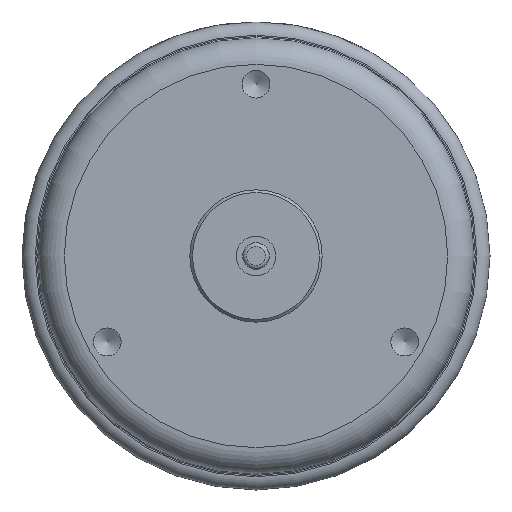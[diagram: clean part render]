
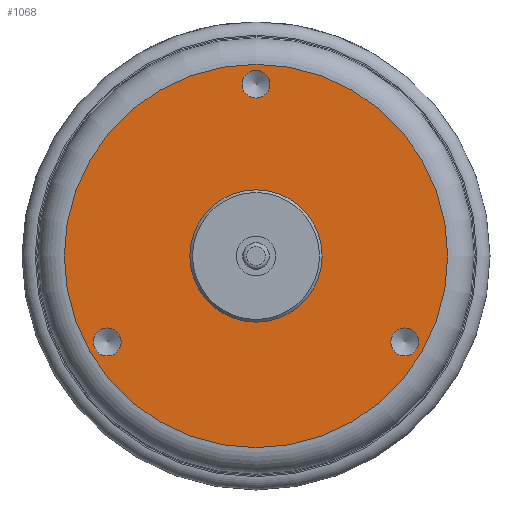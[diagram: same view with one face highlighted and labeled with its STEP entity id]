
A CAD part, front view. The second image highlights one B-rep face of the part: STEP entity #1068.
In plain terms, the highlighted planar face has unit normal (0, -1, 0).
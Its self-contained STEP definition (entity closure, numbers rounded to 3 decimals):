
#46=FACE_BOUND('',#342,.T.);
#47=FACE_BOUND('',#343,.T.);
#48=FACE_BOUND('',#344,.T.);
#49=FACE_BOUND('',#345,.T.);
#113=PLANE('',#1233);
#165=CIRCLE('',#1193,1.057);
#167=CIRCLE('',#1197,1.057);
#169=CIRCLE('',#1201,1.057);
#176=CIRCLE('',#1213,5.);
#187=CIRCLE('',#1231,14.5);
#255=FACE_OUTER_BOUND('',#341,.T.);
#341=EDGE_LOOP('',(#971));
#342=EDGE_LOOP('',(#972));
#343=EDGE_LOOP('',(#973));
#344=EDGE_LOOP('',(#974));
#345=EDGE_LOOP('',(#975));
#537=VERTEX_POINT('',#1875);
#540=VERTEX_POINT('',#1884);
#543=VERTEX_POINT('',#1893);
#549=VERTEX_POINT('',#1914);
#558=VERTEX_POINT('',#1944);
#664=EDGE_CURVE('',#537,#537,#165,.T.);
#668=EDGE_CURVE('',#540,#540,#167,.T.);
#672=EDGE_CURVE('',#543,#543,#169,.T.);
#683=EDGE_CURVE('',#549,#549,#176,.T.);
#696=EDGE_CURVE('',#558,#558,#187,.T.);
#971=ORIENTED_EDGE('',*,*,#696,.F.);
#972=ORIENTED_EDGE('',*,*,#664,.T.);
#973=ORIENTED_EDGE('',*,*,#668,.T.);
#974=ORIENTED_EDGE('',*,*,#672,.T.);
#975=ORIENTED_EDGE('',*,*,#683,.T.);
#1068=ADVANCED_FACE('',(#255,#46,#47,#48,#49),#113,.T.);
#1193=AXIS2_PLACEMENT_3D('',#1876,#1484,#1485);
#1197=AXIS2_PLACEMENT_3D('',#1885,#1494,#1495);
#1201=AXIS2_PLACEMENT_3D('',#1894,#1504,#1505);
#1213=AXIS2_PLACEMENT_3D('',#1916,#1532,#1533);
#1231=AXIS2_PLACEMENT_3D('',#1945,#1570,#1571);
#1233=AXIS2_PLACEMENT_3D('',#1947,#1574,#1575);
#1484=DIRECTION('center_axis',(0.,1.,0.));
#1485=DIRECTION('ref_axis',(1.,0.,0.));
#1494=DIRECTION('center_axis',(0.,1.,0.));
#1495=DIRECTION('ref_axis',(1.,0.,0.));
#1504=DIRECTION('center_axis',(0.,1.,0.));
#1505=DIRECTION('ref_axis',(1.,0.,0.));
#1532=DIRECTION('center_axis',(0.,1.,0.));
#1533=DIRECTION('ref_axis',(-1.,0.,0.));
#1570=DIRECTION('center_axis',(0.,1.,0.));
#1571=DIRECTION('ref_axis',(1.,0.,0.));
#1574=DIRECTION('center_axis',(0.,-1.,0.));
#1575=DIRECTION('ref_axis',(0.,0.,-1.));
#1875=CARTESIAN_POINT('',(10.202,0.,-6.5));
#1876=CARTESIAN_POINT('Origin',(11.258,0.,-6.5));
#1884=CARTESIAN_POINT('',(-12.315,0.,-6.5));
#1885=CARTESIAN_POINT('Origin',(-11.258,0.,-6.5));
#1893=CARTESIAN_POINT('',(-1.057,0.,13.));
#1894=CARTESIAN_POINT('Origin',(0.,0.,13.));
#1914=CARTESIAN_POINT('',(5.,0.,0.));
#1916=CARTESIAN_POINT('Origin',(0.,0.,0.));
#1944=CARTESIAN_POINT('',(0.,0.,14.5));
#1945=CARTESIAN_POINT('Origin',(0.,0.,0.));
#1947=CARTESIAN_POINT('Origin',(0.,0.,0.));
